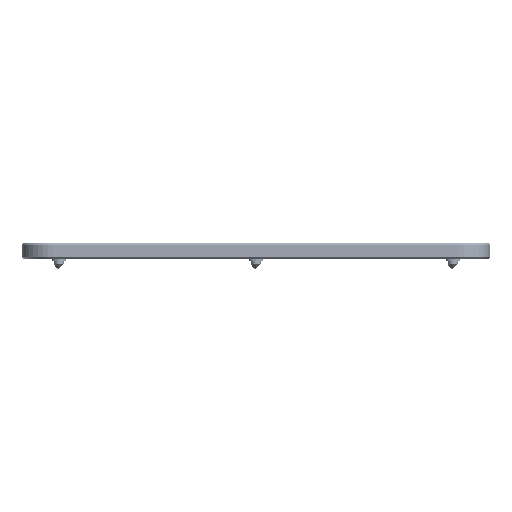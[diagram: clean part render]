
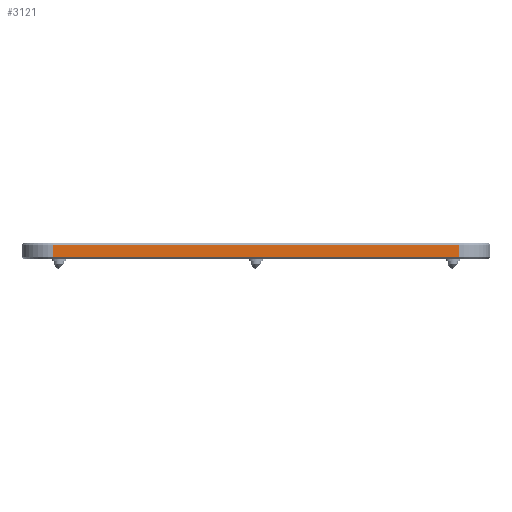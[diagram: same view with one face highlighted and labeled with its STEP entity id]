
A CAD part, front view. The second image highlights one B-rep face of the part: STEP entity #3121.
In plain terms, the highlighted planar face has unit normal (0, -1, 0).
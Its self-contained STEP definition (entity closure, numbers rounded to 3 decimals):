
#61=LINE('',#42884,#210);
#62=LINE('',#42887,#211);
#63=LINE('',#42889,#212);
#64=LINE('',#42891,#213);
#210=VECTOR('',#30438,1.);
#211=VECTOR('',#30439,1.);
#212=VECTOR('',#30440,1.);
#213=VECTOR('',#30441,1.);
#2411=FACE_OUTER_BOUND('',#9279,.T.);
#3121=ADVANCED_FACE('',(#2411),#4667,.F.);
#4667=PLANE('',#26388);
#9279=EDGE_LOOP('',(#14463,#14464,#14465,#14466));
#14463=ORIENTED_EDGE('',*,*,#22268,.T.);
#14464=ORIENTED_EDGE('',*,*,#22269,.T.);
#14465=ORIENTED_EDGE('',*,*,#22270,.T.);
#14466=ORIENTED_EDGE('',*,*,#22271,.T.);
#19437=VERTEX_POINT('',#42885);
#19438=VERTEX_POINT('',#42886);
#19439=VERTEX_POINT('',#42888);
#19440=VERTEX_POINT('',#42890);
#22268=EDGE_CURVE('',#19437,#19438,#61,.T.);
#22269=EDGE_CURVE('',#19438,#19439,#62,.T.);
#22270=EDGE_CURVE('',#19439,#19440,#63,.T.);
#22271=EDGE_CURVE('',#19440,#19437,#64,.T.);
#26388=AXIS2_PLACEMENT_3D('',#42892,#30442,#30443);
#30438=DIRECTION('',(0.,0.,-1.));
#30439=DIRECTION('',(1.,0.,0.));
#30440=DIRECTION('',(0.,0.,1.));
#30441=DIRECTION('',(-1.,0.,0.));
#30442=DIRECTION('',(0.,1.,0.));
#30443=DIRECTION('',(0.,0.,1.));
#42884=CARTESIAN_POINT('',(-130.,-150.,0.));
#42885=CARTESIAN_POINT('',(-130.,-150.,-1.));
#42886=CARTESIAN_POINT('',(-130.,-150.,-9.));
#42887=CARTESIAN_POINT('',(-150.,-150.,-9.));
#42888=CARTESIAN_POINT('',(130.,-150.,-9.));
#42889=CARTESIAN_POINT('',(130.,-150.,0.));
#42890=CARTESIAN_POINT('',(130.,-150.,-1.));
#42891=CARTESIAN_POINT('',(-130.,-150.,-1.));
#42892=CARTESIAN_POINT('',(-150.,-150.,0.));
